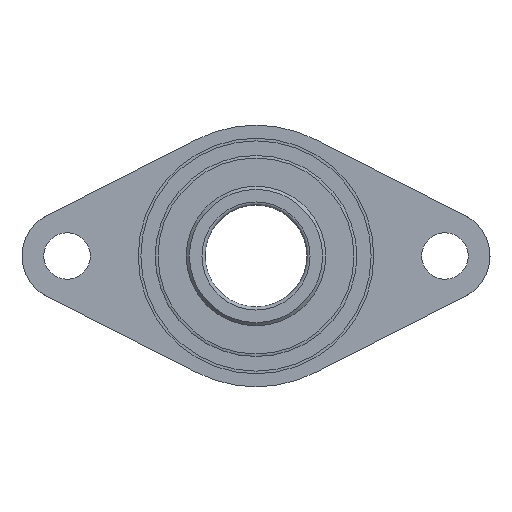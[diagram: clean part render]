
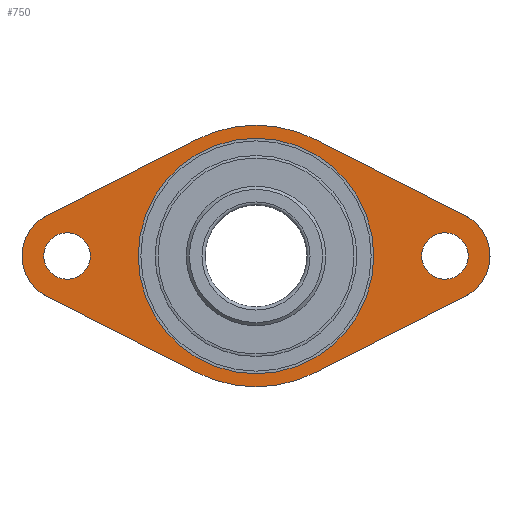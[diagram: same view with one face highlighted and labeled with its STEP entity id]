
A CAD part, left-side view. The second image highlights one B-rep face of the part: STEP entity #750.
In plain terms, the highlighted planar face has unit normal (-1, 0, 0).
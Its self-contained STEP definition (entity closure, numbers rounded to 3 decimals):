
#56 = VERTEX_POINT ( 'NONE', #246 ) ;
#59 = VERTEX_POINT ( 'NONE', #250 ) ;
#72 = VERTEX_POINT ( 'NONE', #251 ) ;
#101 = CARTESIAN_POINT ( 'NONE',  ( -19., 0., 0. ) ) ;
#109 = DIRECTION ( 'NONE',  ( 1., 0., 0. ) ) ;
#246 = CARTESIAN_POINT ( 'NONE',  ( -19., 0., -40.5 ) ) ;
#250 = CARTESIAN_POINT ( 'NONE',  ( -19., -65., -8. ) ) ;
#251 = CARTESIAN_POINT ( 'NONE',  ( -19., 65., -8. ) ) ;
#336 = CIRCLE ( 'NONE', #1095, 45. ) ;
#380 = PLANE ( 'NONE',  #1808 ) ;
#430 = CARTESIAN_POINT ( 'NONE',  ( -19., 20.423, 40.099 ) ) ;
#457 = DIRECTION ( 'NONE',  ( 0., 0., -1. ) ) ;
#461 = DIRECTION ( 'NONE',  ( 1., 0., 0. ) ) ;
#466 = CARTESIAN_POINT ( 'NONE',  ( -19., 0., 0. ) ) ;
#581 = DIRECTION ( 'NONE',  ( 1., 0., 0. ) ) ;
#584 = DIRECTION ( 'NONE',  ( 0., 0., -1. ) ) ;
#602 = CARTESIAN_POINT ( 'NONE',  ( -19., 20.423, -40.099 ) ) ;
#643 = VERTEX_POINT ( 'NONE', #2395 ) ;
#652 = VERTEX_POINT ( 'NONE', #2326 ) ;
#713 = CARTESIAN_POINT ( 'NONE',  ( -19., 0., 0. ) ) ;
#750 = ADVANCED_FACE ( 'E454', ( #2599, #2660, #2606, #2663 ), #380, .F. ) ;
#796 = DIRECTION ( 'NONE',  ( 0., 0., -1. ) ) ;
#811 = VERTEX_POINT ( 'NONE', #1776 ) ;
#821 = VERTEX_POINT ( 'NONE', #602 ) ;
#839 = DIRECTION ( 'NONE',  ( 1., 0., 0. ) ) ;
#847 = CARTESIAN_POINT ( 'NONE',  ( -19., -65., 0. ) ) ;
#871 = CARTESIAN_POINT ( 'NONE',  ( -19., -65., 0. ) ) ;
#877 = DIRECTION ( 'NONE',  ( 1., 0., 0. ) ) ;
#880 = DIRECTION ( 'NONE',  ( 0., 0., -1. ) ) ;
#889 = DIRECTION ( 'NONE',  ( 1., 0., 0. ) ) ;
#892 = VERTEX_POINT ( 'NONE', #1815 ) ;
#902 = DIRECTION ( 'NONE',  ( 0., 0., -1. ) ) ;
#912 = CARTESIAN_POINT ( 'NONE',  ( -19., 65., 0. ) ) ;
#918 = DIRECTION ( 'NONE',  ( 1., 0., 0. ) ) ;
#1017 = DIRECTION ( 'NONE',  ( 0., 0., -1. ) ) ;
#1095 = AXIS2_PLACEMENT_3D ( 'NONE', #466, #461, #457 ) ;
#1193 = VECTOR ( 'NONE', #3001, 1000. ) ;
#1206 = LINE ( 'NONE', #3004, #1193 ) ;
#1291 = CIRCLE ( 'NONE', #1418, 40.5 ) ;
#1315 = CIRCLE ( 'NONE', #1423, 8. ) ;
#1341 = CARTESIAN_POINT ( 'NONE',  ( -19., 72.035, 13.812 ) ) ;
#1342 = VECTOR ( 'NONE', #2351, 1000. ) ;
#1363 = LINE ( 'NONE', #2106, #1342 ) ;
#1364 = VECTOR ( 'NONE', #2512, 1000. ) ;
#1373 = CIRCLE ( 'NONE', #1429, 8. ) ;
#1382 = LINE ( 'NONE', #2463, #1364 ) ;
#1400 = CIRCLE ( 'NONE', #1437, 15.5 ) ;
#1404 = VERTEX_POINT ( 'NONE', #2887 ) ;
#1418 = AXIS2_PLACEMENT_3D ( 'NONE', #713, #839, #796 ) ;
#1423 = AXIS2_PLACEMENT_3D ( 'NONE', #847, #889, #1017 ) ;
#1429 = AXIS2_PLACEMENT_3D ( 'NONE', #912, #918, #902 ) ;
#1437 = AXIS2_PLACEMENT_3D ( 'NONE', #2904, #2559, #2558 ) ;
#1439 = ORIENTED_EDGE ( 'NONE', *, *, #2350, .F. ) ;
#1440 = ORIENTED_EDGE ( 'NONE', *, *, #2436, .T. ) ;
#1444 = ORIENTED_EDGE ( 'NONE', *, *, #2427, .F. ) ;
#1449 = ORIENTED_EDGE ( 'NONE', *, *, #2398, .F. ) ;
#1452 = ORIENTED_EDGE ( 'NONE', *, *, #2953, .F. ) ;
#1456 = ORIENTED_EDGE ( 'NONE', *, *, #2441, .T. ) ;
#1459 = ORIENTED_EDGE ( 'NONE', *, *, #2293, .F. ) ;
#1463 = ORIENTED_EDGE ( 'NONE', *, *, #2498, .F. ) ;
#1484 = ORIENTED_EDGE ( 'NONE', *, *, #2456, .T. ) ;
#1494 = VECTOR ( 'NONE', #2948, 1000. ) ;
#1496 = ORIENTED_EDGE ( 'NONE', *, *, #2461, .T. ) ;
#1497 = AXIS2_PLACEMENT_3D ( 'NONE', #101, #109, #1819 ) ;
#1511 = LINE ( 'NONE', #2934, #1494 ) ;
#1514 = ORIENTED_EDGE ( 'NONE', *, *, #2468, .T. ) ;
#1571 = AXIS2_PLACEMENT_3D ( 'NONE', #871, #877, #880 ) ;
#1590 = CIRCLE ( 'NONE', #1497, 45. ) ;
#1776 = CARTESIAN_POINT ( 'NONE',  ( -19., -72.035, 13.812 ) ) ;
#1801 = CIRCLE ( 'NONE', #1571, 15.5 ) ;
#1808 = AXIS2_PLACEMENT_3D ( 'NONE', #2849, #581, #584 ) ;
#1815 = CARTESIAN_POINT ( 'NONE',  ( -19., -20.423, 40.099 ) ) ;
#1819 = DIRECTION ( 'NONE',  ( 0., 0., -1. ) ) ;
#1996 = VERTEX_POINT ( 'NONE', #430 ) ;
#2106 = CARTESIAN_POINT ( 'NONE',  ( -19., -72.035, 13.812 ) ) ;
#2293 = EDGE_CURVE ( 'E246', #811, #643, #1801, .T. ) ;
#2326 = CARTESIAN_POINT ( 'NONE',  ( -19., -20.423, -40.099 ) ) ;
#2350 = EDGE_CURVE ( 'E350', #652, #821, #1590, .T. ) ;
#2351 = DIRECTION ( 'NONE',  ( 0., 0.891, 0.454 ) ) ;
#2395 = CARTESIAN_POINT ( 'NONE',  ( -19., -72.035, -13.812 ) ) ;
#2398 = EDGE_CURVE ( 'E193', #2729, #1996, #1511, .T. ) ;
#2427 = EDGE_CURVE ( 'E382', #1404, #2729, #1400, .T. ) ;
#2436 = EDGE_CURVE ( 'E376', #1404, #821, #1382, .T. ) ;
#2441 = EDGE_CURVE ( 'E240', #811, #892, #1363, .T. ) ;
#2456 = EDGE_CURVE ( 'NONE', #72, #72, #1373, .T. ) ;
#2461 = EDGE_CURVE ( 'NONE', #59, #59, #1315, .T. ) ;
#2463 = CARTESIAN_POINT ( 'NONE',  ( -19., 72.035, -13.812 ) ) ;
#2468 = EDGE_CURVE ( 'NONE', #56, #56, #1291, .T. ) ;
#2498 = EDGE_CURVE ( 'E329', #643, #652, #1206, .T. ) ;
#2512 = DIRECTION ( 'NONE',  ( 0., -0.891, -0.454 ) ) ;
#2527 = EDGE_LOOP ( 'NONE', ( #1463, #1459, #1456, #1452, #1449, #1444, #1440, #1439 ) ) ;
#2558 = DIRECTION ( 'NONE',  ( 0., 0., -1. ) ) ;
#2559 = DIRECTION ( 'NONE',  ( 1., 0., 0. ) ) ;
#2599 = FACE_BOUND ( 'NONE', #2717, .T. ) ;
#2606 = FACE_BOUND ( 'NONE', #2819, .T. ) ;
#2660 = FACE_BOUND ( 'NONE', #2690, .T. ) ;
#2663 = FACE_OUTER_BOUND ( 'NONE', #2527, .T. ) ;
#2690 = EDGE_LOOP ( 'NONE', ( #1496 ) ) ;
#2717 = EDGE_LOOP ( 'NONE', ( #1514 ) ) ;
#2729 = VERTEX_POINT ( 'NONE', #1341 ) ;
#2819 = EDGE_LOOP ( 'NONE', ( #1484 ) ) ;
#2849 = CARTESIAN_POINT ( 'NONE',  ( -19., 0., 0. ) ) ;
#2887 = CARTESIAN_POINT ( 'NONE',  ( -19., 72.035, -13.812 ) ) ;
#2904 = CARTESIAN_POINT ( 'NONE',  ( -19., 65., 0. ) ) ;
#2934 = CARTESIAN_POINT ( 'NONE',  ( -19., 72.035, 13.812 ) ) ;
#2948 = DIRECTION ( 'NONE',  ( 0., -0.891, 0.454 ) ) ;
#2953 = EDGE_CURVE ( 'E214', #1996, #892, #336, .T. ) ;
#3001 = DIRECTION ( 'NONE',  ( 0., 0.891, -0.454 ) ) ;
#3004 = CARTESIAN_POINT ( 'NONE',  ( -19., -72.035, -13.812 ) ) ;
